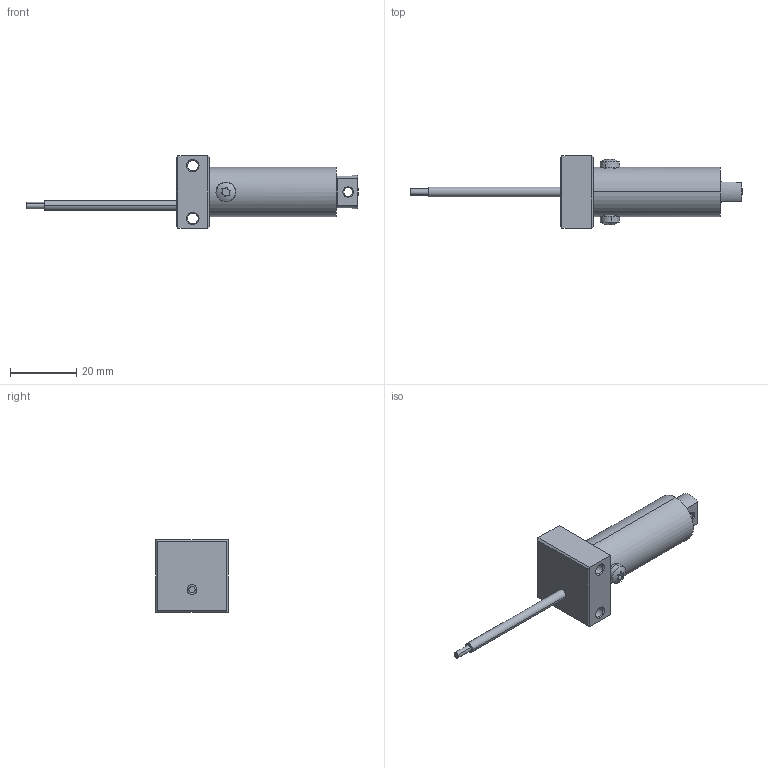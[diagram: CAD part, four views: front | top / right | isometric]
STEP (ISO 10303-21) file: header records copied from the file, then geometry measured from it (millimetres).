
FILE_DESCRIPTION(('STEP AP203'),'1');
FILE_NAME('C:/TPO v2/SharedFS/Outgoing/burster_8510-5005_24isk25ug3eea1jy0vyfq5k7n.stp','2013-08-27T14:58:22',('TraceParts'),('TraceParts S.A.'),'XStep 1.0',' ',' ');
FILE_SCHEMA(('CONFIG_CONTROL_DESIGN'));
Length unit declared in the file: millimetre
Products named in the file (1): 1
Bounding box: 100.51 x 22 x 22 mm (x, y, z)
Volume: 12003.7 mm3; surface area: 4742.5 mm2
Topology: 1 solids, 1 shells, 94 faces, 227 edges, 144 vertices
Faces by surface type: cylinder 38, plane 38, cone 16, sphere 2
Entity records: 2999 total; most frequent: CARTESIAN_POINT 716, DIRECTION 479, ORIENTED_EDGE 454, EDGE_CURVE 227, AXIS2_PLACEMENT_3D 181, VERTEX_POINT 144, LINE 117, VECTOR 117
